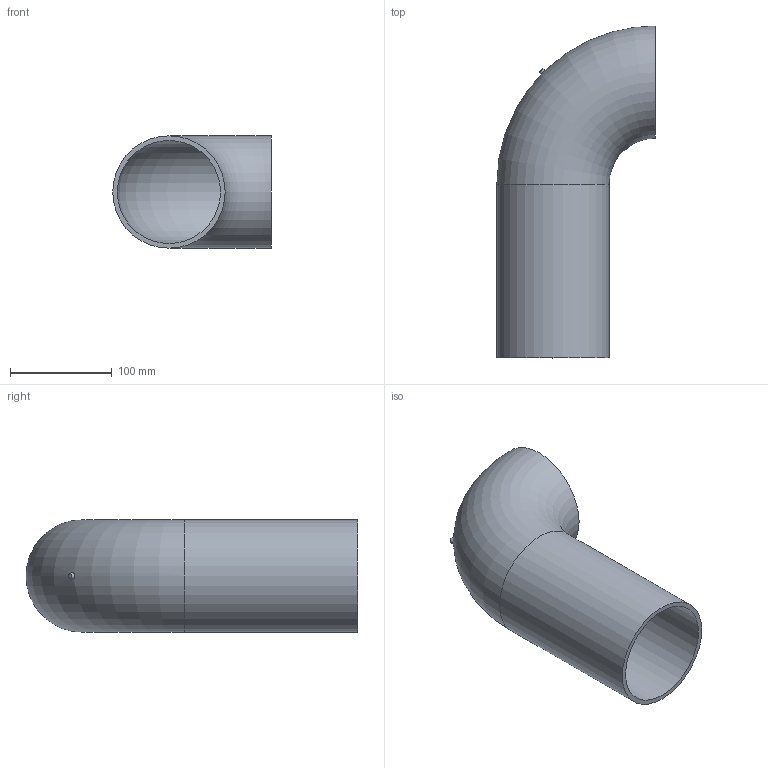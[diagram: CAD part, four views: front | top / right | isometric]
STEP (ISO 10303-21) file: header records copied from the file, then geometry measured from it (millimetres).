
FILE_DESCRIPTION(/* description */ (''),/* implementation_level */ '2;1');
FILE_NAME(/* name */ 'Z:\Geberit\Export\NewStep\PE Bogen Einzelteil_Ipart\stp\367055.stp',/* time_stamp */ '2014-04-02T11:57:00+02:00',/* author */ ('bruh'),/* organization */ (''),/* preprocessor_version */ 'ST-DEVELOPER v15.2',/* originating_system */ 'Autodesk Inventor 2014',/* authorisation */ '');
FILE_SCHEMA (('AUTOMOTIVE_DESIGN { 1 0 10303 214 3 1 1 }'));
Length unit declared in the file: millimetre
Products named in the file (1): 367055
Bounding box: 155.7 x 326.2 x 110.4 mm (x, y, z)
Volume: 494808.6 mm3; surface area: 221481.2 mm2
Topology: 1 solids, 1 shells, 8 faces, 16 edges, 10 vertices
Faces by surface type: plane 3, cylinder 2, torus 2, cone 1
Full cylindrical faces by diameter (mm): 101.34 x1, 110.4 x1
Entity records: 239 total; most frequent: CARTESIAN_POINT 70, DIRECTION 32, EDGE_LOOP 16, ORIENTED_EDGE 16, AXIS2_PLACEMENT_3D 16, FACE_BOUND 10, STYLED_ITEM 9, VERTEX_POINT 8
